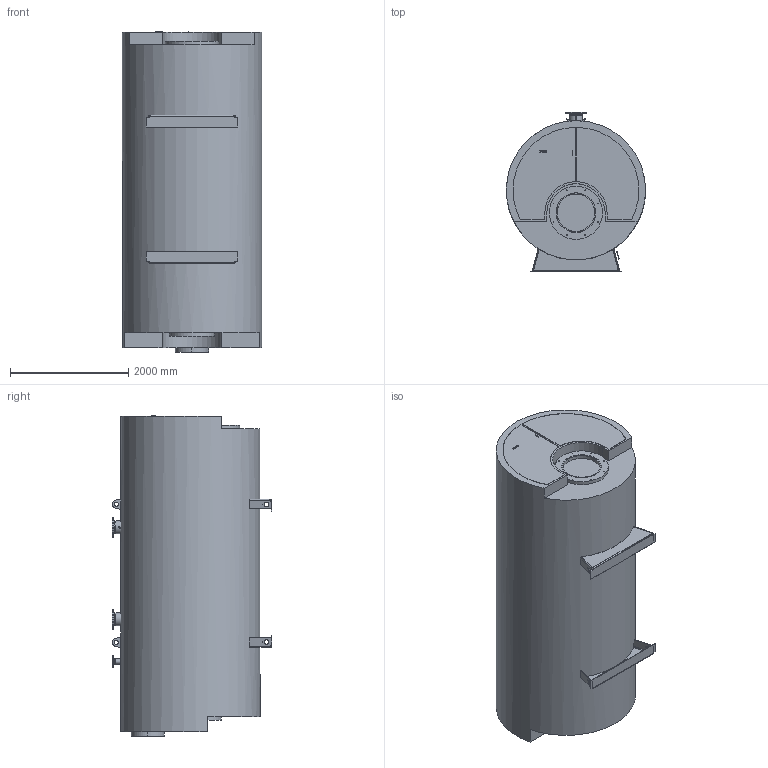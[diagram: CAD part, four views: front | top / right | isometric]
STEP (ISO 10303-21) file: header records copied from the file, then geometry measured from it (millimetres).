
FILE_DESCRIPTION(('TFLEX Exchange Step'),'2;1');
FILE_NAME('M62D005_RD_7550651_H001.stp', '2024-08-07T13:27:44+03:00',('kort'),('Unknown organisation'),'TFLEX Exchange 2024.2','T-FLEX CAD','Unknown authorisation');
FILE_SCHEMA( ('AP242_MANAGED_MODEL_BASED_3D_ENGINEERING_MIM_LF {1 0 10303 442 1 1 4 }') );
Length unit declared in the file: millimetre
Products named in the file (1): 7550651_Grundkessel M62D005_H001
Bounding box: 2352.67 x 2700 x 5414.2 mm (x, y, z)
Volume: 22464954180.6 mm3; surface area: 52844705.3 mm2
Topology: 32 solids, 32 shells, 548 faces, 1414 edges, 964 vertices
Faces by surface type: plane 296, cylinder 148, bspline 86, torus 12, cone 6
Full cylindrical faces by diameter (mm): 2.2 x4, 3.2 x4, 3.3 x4, 4 x4, 6.5 x4, 13 x4, 14 x8, 18 x8, 18.63 x2, 22 x24, 27 x2, 70 x2, 78.9 x1, 80 x4, 82.5 x1, 88.9 x2, 138 x1, 141 x1, 200 x1, 203.1 x2, 206.5 x2, 219.1 x2, 340 x2, 760 x1, 900 x1, 2354 x1
Entity records: 24529 total; most frequent: CARTESIAN_POINT 10712, ORIENTED_EDGE 2828, DIRECTION 2534, EDGE_CURVE 1414, VERTEX_POINT 964, AXIS2_PLACEMENT_3D 872, VECTOR 790, LINE 790
